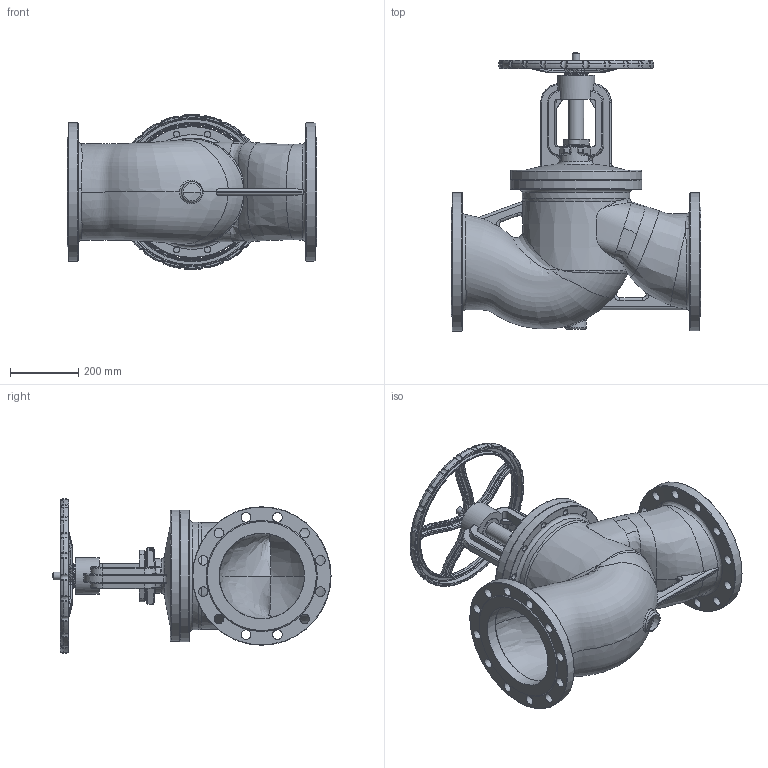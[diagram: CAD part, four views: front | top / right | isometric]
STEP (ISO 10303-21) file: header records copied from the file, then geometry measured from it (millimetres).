
FILE_DESCRIPTION(/* description */ ('STEP AP203'),/* implementation_level */ '2;1');
FILE_NAME(/* name */ '',/* time_stamp */ '2025-02-21T11:34:31+07:00',/* author */ ('Eva'),/* organization */ (''),/* preprocessor_version */ 'ST-DEVELOPER v20',/* originating_system */ 'Autodesk Inventor 2025',/* authorisation */ '');
FILE_SCHEMA (('AUTOMOTIVE_DESIGN { 1 0 10303 214 3 1 1 }'));
Products named in the file (7): 截止阀250; 截止阀250阀盖; 德标截止阀杆螺母250; 德标截止压盖250; 德标截止250阀杆; 250; YD.T-616-450.01-250-Q-手轮
Assembly tree (6 placements, depth 2):
  截止阀250
    截止阀250阀盖
    德标截止阀杆螺母250
    德标截止压盖250
    德标截止250阀杆
    250
    YD.T-616-450.01-250-Q-手轮
Bounding box: 729.85 x 813.27 x 453.01 mm (x, y, z)
Volume: 24117841.6 mm3; surface area: 2846830.2 mm2
Topology: 8 solids, 8 shells, 1604 faces, 4041 edges, 2425 vertices
Faces by surface type: bspline 708, plane 348, cylinder 268, torus 203, cone 65, sphere 12
Full cylindrical faces by diameter (mm): 18 x26, 22 x1, 28 x24, 34 x1, 36 x1, 44 x3, 44.3 x1, 48 x1, 64 x1, 65 x1, 67 x1, 67.8 x1, 68 x1, 69.25 x1, 108 x1, 222 x1, 250 x2, 252 x1, 280 x1, 305 x1, 385 x1, 405 x1
Entity records: 244146 total; most frequent: CARTESIAN_POINT 209662, ORIENTED_EDGE 8028, DIRECTION 6108, EDGE_CURVE 4014, AXIS2_PLACEMENT_3D 2496, VERTEX_POINT 2425, EDGE_LOOP 1733, FACE_OUTER_BOUND 1604
